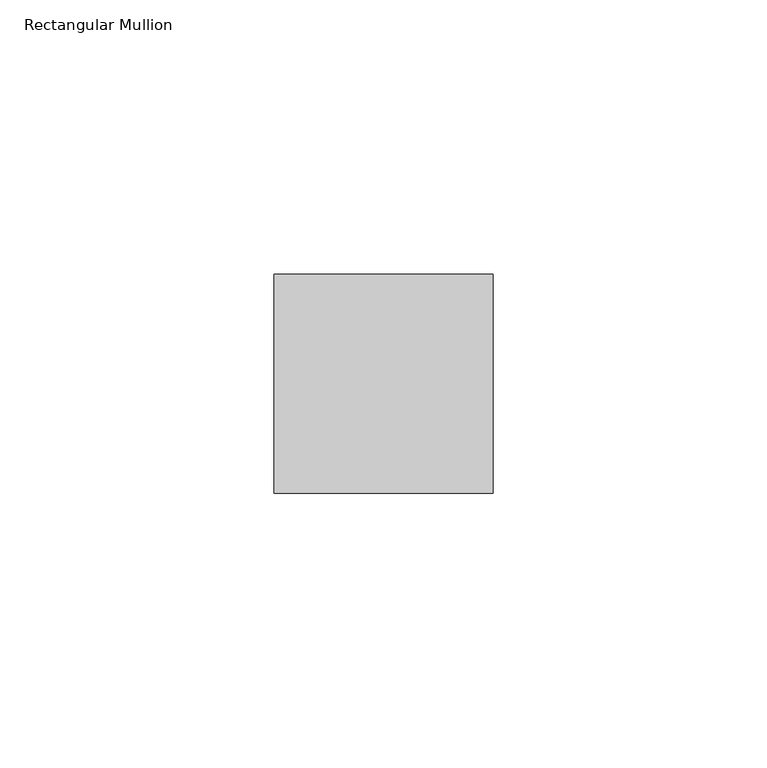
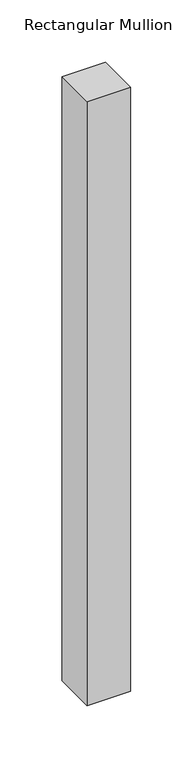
"""IFC4 building model written with IfcOpenShell, lengths in millimetres: member geometry, Rectangular Mullion : Danpal_NM_Middle-H-Mullion."""

from ifc_helpers import new_model, si_unit, frame, origin, place, context, project, spatial, polyline, outline, extrude, source, transform, mapped, element, save


def rectangular_mullion_9ac38ad4(model_context):
    return source(origin(), model_context, "Body", "SweptSolid", [
        extrude(outline(polyline([(59.9, 13.2378279), (19.9, 13.2378279), (19.9, 53.2378279), (59.9, 53.2378279), (59.9, 13.2378279)])), frame((0.0, 0.0, -590.0), z_axis=(0.0, 0.0, 1.0), x_axis=(1.0, 0.0, 0.0)), (0.0, 0.0, 1.0), 590.0),
    ])


if __name__ == "__main__":
    model = new_model("IFC4")
    model_context = context("Model", 3, world=origin())
    ifc_project = project(units=[si_unit("LENGTHUNIT", "METRE", prefix="MILLI")], contexts=[model_context])
    site = spatial("IfcSite", under=ifc_project)
    building = spatial("IfcBuilding", under=site)
    placement = place(None, origin())
    rectangular_mullion_shape = rectangular_mullion_9ac38ad4(model_context)
    element("IfcMember", 1, ObjectType="Rectangular Mullion : Danpal_NM_Middle-H-Mullion", at=placement, inside=building, context=model_context, shape_type="MappedRepresentation", body=[
        mapped(rectangular_mullion_shape, transform((0.0, 0.0, 0.0), x_axis=(1.0, 0.0, 0.0), y_axis=(0.0, 1.0, 0.0), z_axis=(0.0, 0.0, 1.0))),
    ])
    save(model, "model.ifc")
